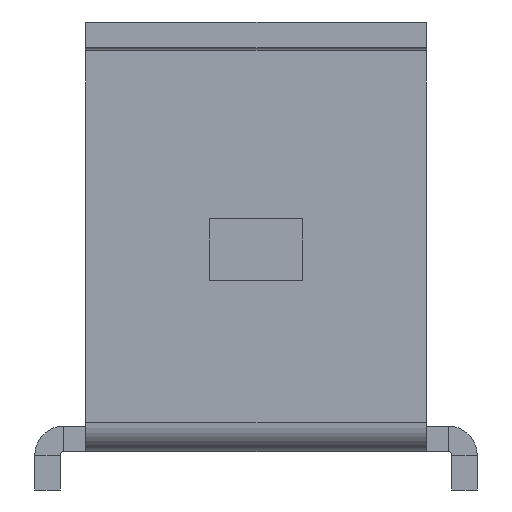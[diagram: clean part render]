
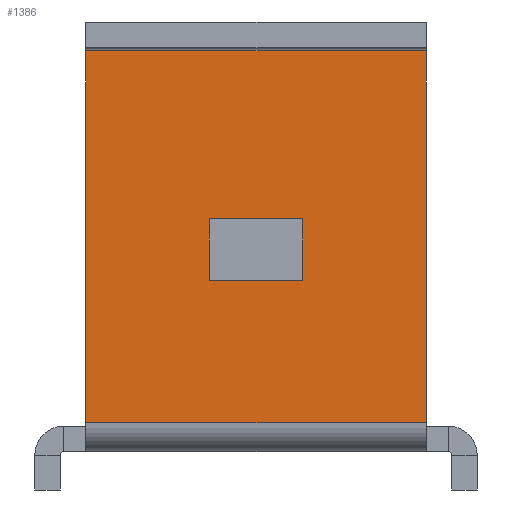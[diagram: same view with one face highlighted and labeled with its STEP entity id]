
A CAD part, left-side view. The second image highlights one B-rep face of the part: STEP entity #1386.
In plain terms, the highlighted planar face has unit normal (-1, 0, 0).
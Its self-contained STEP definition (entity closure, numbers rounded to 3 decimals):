
#20=FACE_BOUND('',#240,.T.);
#150=FACE_OUTER_BOUND('',#239,.T.);
#239=EDGE_LOOP('',(#1174,#1175,#1176,#1177));
#240=EDGE_LOOP('',(#1178,#1179,#1180,#1181));
#258=LINE('',#1931,#410);
#262=LINE('',#1939,#414);
#265=LINE('',#1945,#417);
#268=LINE('',#1950,#420);
#388=LINE('',#2261,#540);
#389=LINE('',#2263,#541);
#390=LINE('',#2265,#542);
#391=LINE('',#2266,#543);
#410=VECTOR('',#1531,14.5);
#414=VECTOR('',#1537,22.);
#417=VECTOR('',#1542,14.5);
#420=VECTOR('',#1547,22.);
#540=VECTOR('',#1865,80.);
#541=VECTOR('',#1866,87.4);
#542=VECTOR('',#1867,80.);
#543=VECTOR('',#1868,87.4);
#562=VERTEX_POINT('',#1929);
#563=VERTEX_POINT('',#1930);
#566=VERTEX_POINT('',#1938);
#568=VERTEX_POINT('',#1944);
#660=VERTEX_POINT('',#2255);
#661=VERTEX_POINT('',#2260);
#662=VERTEX_POINT('',#2262);
#663=VERTEX_POINT('',#2264);
#674=EDGE_CURVE('',#562,#563,#258,.T.);
#678=EDGE_CURVE('',#566,#562,#262,.T.);
#681=EDGE_CURVE('',#568,#566,#265,.T.);
#684=EDGE_CURVE('',#563,#568,#268,.T.);
#839=EDGE_CURVE('',#661,#660,#388,.T.);
#840=EDGE_CURVE('',#662,#661,#389,.T.);
#841=EDGE_CURVE('',#662,#663,#390,.T.);
#842=EDGE_CURVE('',#660,#663,#391,.T.);
#1174=ORIENTED_EDGE('',*,*,#839,.F.);
#1175=ORIENTED_EDGE('',*,*,#840,.F.);
#1176=ORIENTED_EDGE('',*,*,#841,.T.);
#1177=ORIENTED_EDGE('',*,*,#842,.F.);
#1178=ORIENTED_EDGE('',*,*,#674,.T.);
#1179=ORIENTED_EDGE('',*,*,#684,.T.);
#1180=ORIENTED_EDGE('',*,*,#681,.T.);
#1181=ORIENTED_EDGE('',*,*,#678,.T.);
#1300=PLANE('',#1506);
#1386=ADVANCED_FACE('',(#150,#20),#1300,.F.);
#1506=AXIS2_PLACEMENT_3D('',#2259,#1863,#1864);
#1531=DIRECTION('',(0.,0.,1.));
#1537=DIRECTION('',(0.,1.,0.));
#1542=DIRECTION('',(0.,0.,-1.));
#1547=DIRECTION('',(0.,-1.,0.));
#1863=DIRECTION('center_axis',(1.,0.,0.));
#1864=DIRECTION('ref_axis',(0.,0.,-1.));
#1865=DIRECTION('',(0.,1.,0.));
#1866=DIRECTION('',(0.,0.,-1.));
#1867=DIRECTION('',(0.,1.,0.));
#1868=DIRECTION('',(0.,0.,1.));
#1929=CARTESIAN_POINT('',(-81.,11.,-60.75));
#1930=CARTESIAN_POINT('',(-81.,11.,-46.25));
#1931=CARTESIAN_POINT('',(-81.,11.,-116.125));
#1938=CARTESIAN_POINT('',(-81.,-11.,-60.75));
#1939=CARTESIAN_POINT('',(-81.,-5.5,-60.75));
#1944=CARTESIAN_POINT('',(-81.,-11.,-46.25));
#1945=CARTESIAN_POINT('',(-81.,-11.,-108.875));
#1950=CARTESIAN_POINT('',(-81.,5.5,-46.25));
#2255=CARTESIAN_POINT('',(-81.,40.,-94.2));
#2259=CARTESIAN_POINT('Origin',(-81.,0.,
-171.5));
#2260=CARTESIAN_POINT('',(-81.,-40.,-94.2));
#2261=CARTESIAN_POINT('',(-81.,0.,-94.2));
#2262=CARTESIAN_POINT('',(-81.,-40.,-6.8));
#2263=CARTESIAN_POINT('',(-81.,-40.,-339.3));
#2264=CARTESIAN_POINT('',(-81.,40.,-6.8));
#2265=CARTESIAN_POINT('',(-81.,0.,-6.8));
#2266=CARTESIAN_POINT('',(-81.,40.,35.5));
